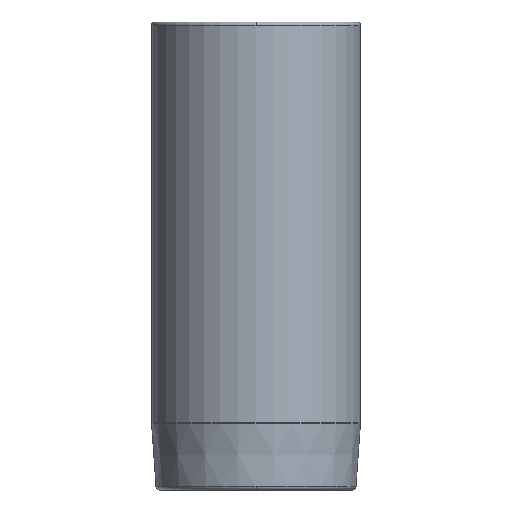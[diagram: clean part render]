
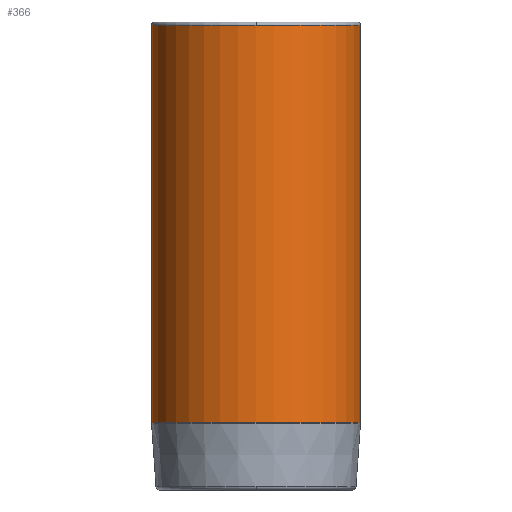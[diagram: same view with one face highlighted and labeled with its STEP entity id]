
A CAD part, front view. The second image highlights one B-rep face of the part: STEP entity #366.
In plain terms, the highlighted cylindrical face has radius 15.625 mm (diameter 31.25 mm), a partial arc.
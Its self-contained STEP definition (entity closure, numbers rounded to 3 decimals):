
#271=CARTESIAN_POINT('',(0.0,-15.625,34.5));
#272=VERTEX_POINT('',#271);
#298=CARTESIAN_POINT('',(-15.625,0.,34.5));
#299=VERTEX_POINT('',#298);
#307=CARTESIAN_POINT('',(0.0,0.,34.5));
#308=DIRECTION('',(0.0,0.0,1.0));
#309=DIRECTION('',(1.0,0.0,0.0));
#310=AXIS2_PLACEMENT_3D('',#307,#308,#309);
#311=CIRCLE('',#310,15.625);
#312=EDGE_CURVE('',#299,#272,#311,.T.);
#317=CARTESIAN_POINT('',(0.0,0.,4.767));
#318=DIRECTION('',(0.0,0.,1.0));
#319=DIRECTION('',(1.0,0.0,0.0));
#320=AXIS2_PLACEMENT_3D('',#317,#318,#319);
#321=CYLINDRICAL_SURFACE('',#320,15.625);
#322=CARTESIAN_POINT('',(15.625,0.,34.5));
#323=VERTEX_POINT('',#322);
#324=CARTESIAN_POINT('',(15.625,0.,-24.965));
#325=VERTEX_POINT('',#324);
#326=CARTESIAN_POINT('',(15.625,0.,34.5));
#327=DIRECTION('',(0.0,0.0,-1.0));
#328=VECTOR('',#327,59.465);
#329=LINE('',#326,#328);
#330=EDGE_CURVE('',#323,#325,#329,.T.);
#331=ORIENTED_EDGE('',*,*,#330,.F.);
#332=CARTESIAN_POINT('',(0.0,0.,34.5));
#333=DIRECTION('',(0.0,0.0,1.0));
#334=DIRECTION('',(1.0,0.0,0.0));
#335=AXIS2_PLACEMENT_3D('',#332,#333,#334);
#336=CIRCLE('',#335,15.625);
#337=EDGE_CURVE('',#272,#323,#336,.T.);
#338=ORIENTED_EDGE('',*,*,#337,.F.);
#339=ORIENTED_EDGE('',*,*,#312,.F.);
#340=CARTESIAN_POINT('',(-15.625,0.,-24.965));
#341=VERTEX_POINT('',#340);
#342=CARTESIAN_POINT('',(-15.625,0.,34.5));
#343=DIRECTION('',(0.0,0.0,-1.0));
#344=VECTOR('',#343,59.465);
#345=LINE('',#342,#344);
#346=EDGE_CURVE('',#299,#341,#345,.T.);
#347=ORIENTED_EDGE('',*,*,#346,.T.);
#348=CARTESIAN_POINT('',(0.0,-15.625,-24.965));
#349=VERTEX_POINT('',#348);
#350=CARTESIAN_POINT('',(0.0,0.,-24.965));
#351=DIRECTION('',(0.0,0.0,1.0));
#352=DIRECTION('',(1.0,0.0,0.0));
#353=AXIS2_PLACEMENT_3D('',#350,#351,#352);
#354=CIRCLE('',#353,15.625);
#355=EDGE_CURVE('',#341,#349,#354,.T.);
#356=ORIENTED_EDGE('',*,*,#355,.T.);
#357=CARTESIAN_POINT('',(0.0,0.,-24.965));
#358=DIRECTION('',(0.0,0.0,1.0));
#359=DIRECTION('',(1.0,0.0,0.0));
#360=AXIS2_PLACEMENT_3D('',#357,#358,#359);
#361=CIRCLE('',#360,15.625);
#362=EDGE_CURVE('',#349,#325,#361,.T.);
#363=ORIENTED_EDGE('',*,*,#362,.T.);
#364=EDGE_LOOP('',(#331,#338,#339,#347,#356,#363));
#365=FACE_OUTER_BOUND('',#364,.T.);
#366=ADVANCED_FACE('',(#365),#321,.T.);
